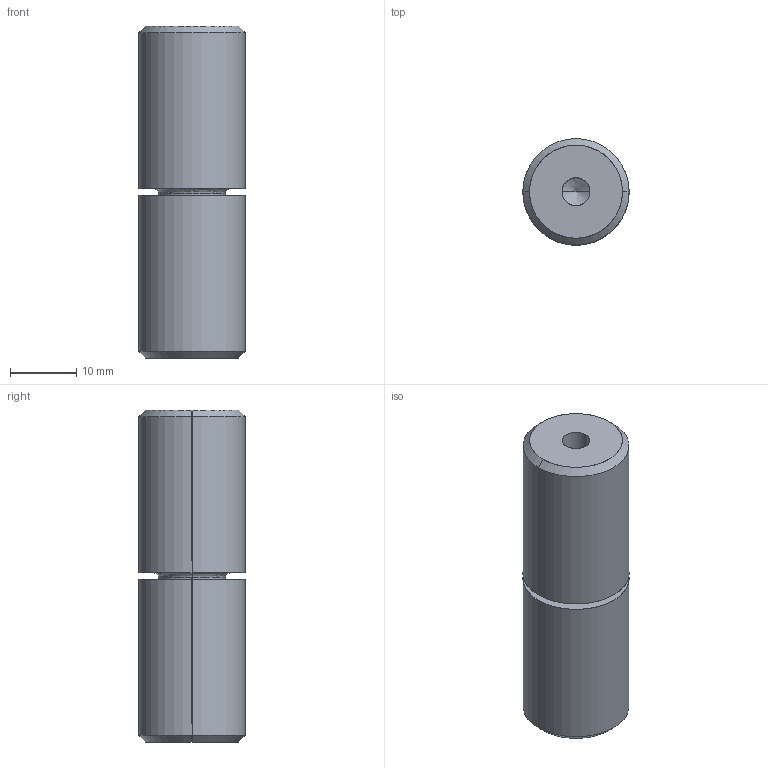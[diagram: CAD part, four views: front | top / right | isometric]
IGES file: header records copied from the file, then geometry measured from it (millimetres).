
Start section: SolidWorks IGES file using analytic representation for surfaces
Global section: file name: D:\Current\W1\TPNF16-16\TPNF16-16.IGS; native system: SolidWorks 2017; preprocessor: SolidWorks 2017; author: Ravi Kalvai; date: 240503.130821; units: millimetre
Bounding box: 16 x 16 x 50 mm (x, y, z)
Surface area: 4543.9 mm2 (no closed solid volume)
Topology: 0 solids, 0 shells, 36 faces, 472 edges, 470 vertices
Faces by surface type: revolution 22, bspline 14
